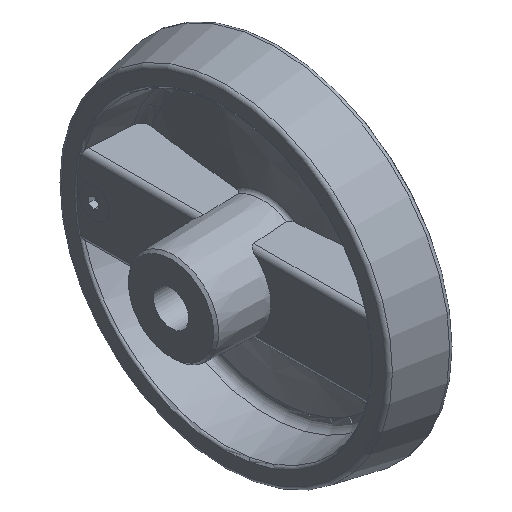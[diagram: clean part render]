
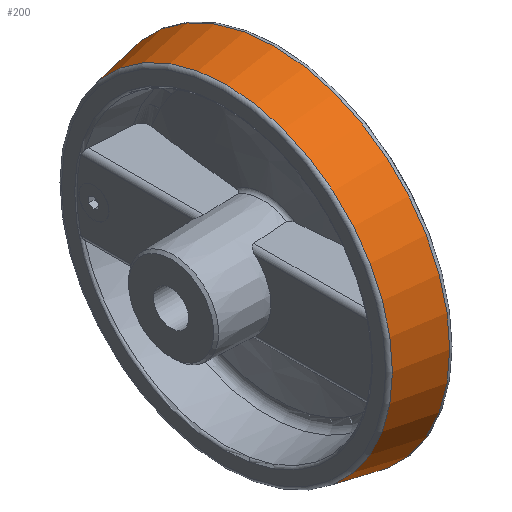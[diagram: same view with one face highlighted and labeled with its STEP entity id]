
A CAD part, isometric view. The second image highlights one B-rep face of the part: STEP entity #200.
In plain terms, the highlighted conical face has half-angle 10.857 degrees and reference radius 66.287 mm.
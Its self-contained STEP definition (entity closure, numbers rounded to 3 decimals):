
#200 = ADVANCED_FACE( '', ( #355, #356 ), #357, .T. );
#355 = FACE_OUTER_BOUND( '', #679, .T. );
#356 = FACE_BOUND( '', #680, .T. );
#357 = CONICAL_SURFACE( '', #681, 66.287, 0.189 );
#679 = EDGE_LOOP( '', ( #1224 ) );
#680 = EDGE_LOOP( '', ( #1225 ) );
#681 = AXIS2_PLACEMENT_3D( '', #1226, #1227, #1228 );
#1224 = ORIENTED_EDGE( '', *, *, #1903, .F. );
#1225 = ORIENTED_EDGE( '', *, *, #1902, .T. );
#1226 = CARTESIAN_POINT( '', ( 22.217, 0., 0. ) );
#1227 = DIRECTION( '', ( 1., 0., 0. ) );
#1228 = DIRECTION( '', ( 0., 0., -1. ) );
#1902 = EDGE_CURVE( '', #2238, #2238, #2239, .T. );
#1903 = EDGE_CURVE( '', #2240, #2240, #2241, .T. );
#2238 = VERTEX_POINT( '', #3090 );
#2239 = CIRCLE( '', #3091, 66.287 );
#2240 = VERTEX_POINT( '', #3092 );
#2241 = CIRCLE( '', #3093, 69.973 );
#3090 = CARTESIAN_POINT( '', ( 22.217, 0., -66.287 ) );
#3091 = AXIS2_PLACEMENT_3D( '', #3618, #3619, #3620 );
#3092 = CARTESIAN_POINT( '', ( 41.437, 0., -69.973 ) );
#3093 = AXIS2_PLACEMENT_3D( '', #3621, #3622, #3623 );
#3618 = CARTESIAN_POINT( '', ( 22.217, 0., 0. ) );
#3619 = DIRECTION( '', ( 1., 0., 0. ) );
#3620 = DIRECTION( '', ( 0., 0., -1. ) );
#3621 = CARTESIAN_POINT( '', ( 41.437, 0., 0. ) );
#3622 = DIRECTION( '', ( 1., 0., 0. ) );
#3623 = DIRECTION( '', ( 0., 0., -1. ) );
